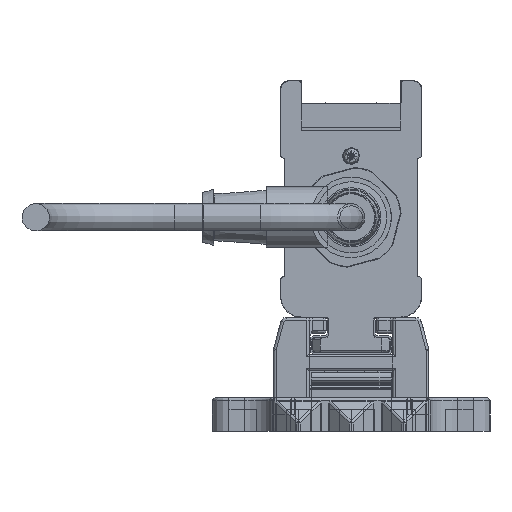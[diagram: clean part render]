
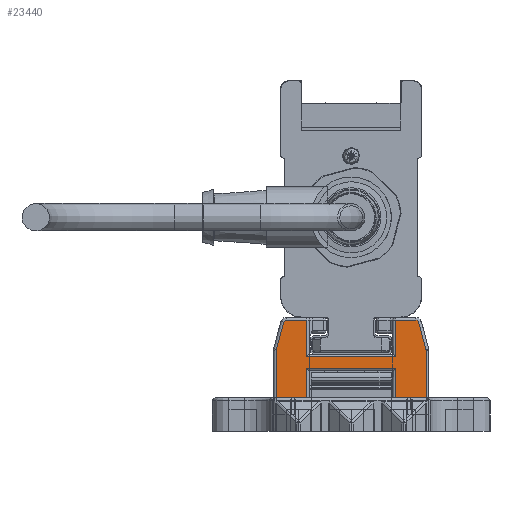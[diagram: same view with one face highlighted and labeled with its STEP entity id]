
A CAD part, left-side view. The second image highlights one B-rep face of the part: STEP entity #23440.
In plain terms, the highlighted planar face has unit normal (-1, 0, 0).
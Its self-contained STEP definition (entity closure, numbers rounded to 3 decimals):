
#23440=ADVANCED_FACE('', (#23450), #23460, .T.);
#165170=AXIS2_PLACEMENT_3D('Ax2Pl3d', #165180, #165190, #165200);
#165410=AXIS2_PLACEMENT_3D('Ax2Pl3d', #165420, #165430, #165440);
#170290=AXIS2_PLACEMENT_3D('Ax2Pl3d', #170300, #170310, #170320);
#175370=AXIS2_PLACEMENT_3D('Ax2Pl3d', #175380, #175390, #175400);
#185050=AXIS2_PLACEMENT_3D('Ax2Pl3d', #185060, #185070, #185080);
#714080=CARTESIAN_POINT('', (-747.669,-4086.345,
331.37));
#165180=CARTESIAN_POINT('HicPkt', (-747.669,-4085.379,
331.111));
#714090=CARTESIAN_POINT('', (-747.669,-4086.379,331.111)
);
#714100=CARTESIAN_POINT('', (-747.669,-4085.037,
336.255));
#714120=CARTESIAN_POINT('', (-747.669,-4085.037,
336.255));
#714150=CARTESIAN_POINT('', (-747.669,-4084.554,
336.625));
#165420=CARTESIAN_POINT('HicPkt', (-747.669,-4084.554,
336.125));
#714370=CARTESIAN_POINT('', (-747.669,-4086.379,322.625)
);
#714380=CARTESIAN_POINT('', (-747.669,-4080.881,322.625)
);
#714390=CARTESIAN_POINT('', (-747.669,-4080.881,322.625)
);
#714470=CARTESIAN_POINT('', (-747.669,-4064.881,322.625)
);
#714480=CARTESIAN_POINT('', (-747.669,-4059.383,322.625)
);
#714490=CARTESIAN_POINT('', (-747.669,-4059.383,322.625)
);
#170300=CARTESIAN_POINT('HicPkt', (-747.669,-4061.209,
336.125));
#716960=CARTESIAN_POINT('', (-747.669,-4060.726,
336.255));
#716970=CARTESIAN_POINT('', (-747.669,-4061.209,
336.625));
#716980=CARTESIAN_POINT('', (-747.669,-4080.881,
330.025));
#716990=CARTESIAN_POINT('', (-747.669,-4064.881,
330.025));
#717000=CARTESIAN_POINT('', (-747.669,-4080.881,
330.025));
#717160=CARTESIAN_POINT('', (-747.669,-4080.881,
328.005));
#717170=CARTESIAN_POINT('', (-747.669,-4064.881,
328.005));
#717180=CARTESIAN_POINT('', (-747.669,-4064.881,
328.005));
#717190=CARTESIAN_POINT('', (-747.669,-4080.881,
328.005));
#717210=CARTESIAN_POINT('', (-747.669,-4064.881,322.625)
);
#717220=CARTESIAN_POINT('', (-747.669,-4064.881,
330.025));
#717230=CARTESIAN_POINT('', (-747.669,-4064.881,
336.625));
#718080=CARTESIAN_POINT('', (-747.669,-4064.881,
336.625));
#718090=CARTESIAN_POINT('', (-747.669,-4060.726,
336.255));
#718100=CARTESIAN_POINT('', (-747.669,-4059.417,
331.37));
#718290=CARTESIAN_POINT('', (-747.669,-4059.383,331.111)
);
#718300=CARTESIAN_POINT('', (-747.669,-4059.383,331.111)
);
#175380=CARTESIAN_POINT('HicPkt', (-747.669,-4060.383,
331.111));
#719110=CARTESIAN_POINT('', (-747.669,-4086.379,331.111)
);
#185060=CARTESIAN_POINT('HicPkt', (-747.669,-4084.554,
336.625));
#720910=CARTESIAN_POINT('', (-747.669,-4080.881,
336.625));
#720920=CARTESIAN_POINT('', (-747.669,-4080.881,
336.625));
#720930=CARTESIAN_POINT('', (-747.669,-4080.881,
336.625));
#828200=CIRCLE('Circle', #165170, 1.);
#828240=CIRCLE('Circle', #165410, 0.5);
#828820=CIRCLE('Circle', #170290, 0.5);
#829350=CIRCLE('Circle', #175370, 1.);
#165190=DIRECTION('Axis', (-1.,0.,
0.));
#165200=DIRECTION('RefDirection', (0.,
0.,-1.));
#1155220=DIRECTION('', (0.,0.259,
0.966));
#165430=DIRECTION('Axis', (-1.,0.,
0.));
#165440=DIRECTION('RefDirection', (0.,
0.,-1.));
#1155330=DIRECTION('', (0.,1.,0.));
#1155370=DIRECTION('', (0.,1.,0.));
#170310=DIRECTION('Axis', (1.,0.,
0.));
#170320=DIRECTION('RefDirection', (0.,
0.,-1.));
#1156560=DIRECTION('', (0.,-1.,0.));
#1156660=DIRECTION('', (0.,1.,0.));
#1156670=DIRECTION('', (0.,0.,1.));
#1156690=DIRECTION('', (0.,0.,-1.));
#1156700=DIRECTION('', (0.,0.,-1.));
#1157130=DIRECTION('', (0.,-1.,0.));
#1157140=DIRECTION('', (0.,-0.259,0.966));
#1157230=DIRECTION('', (0.,0.,1.));
#175390=DIRECTION('Axis', (1.,0.,
0.));
#175400=DIRECTION('RefDirection', (0.,
0.,-1.));
#1157600=DIRECTION('', (0.,0.,1.));
#185070=DIRECTION('Axis', (-1.,0.,
0.));
#185080=DIRECTION('RefDirection', (0.,
0.,-1.));
#1158440=DIRECTION('', (0.,1.,0.));
#1158450=DIRECTION('', (0.,0.,1.));
#1233130=EDGE_CURVE('', #1233140, #1233120, #828200, .T.);
#1233190=EDGE_CURVE('', #1233120, #1233170, #1233200, .T.);
#1233260=EDGE_CURVE('', #1233170, #1233250, #828240, .T.);
#1233710=EDGE_CURVE('', #1233700, #1233720, #1233730, .T.);
#1233870=EDGE_CURVE('', #1233860, #1233880, #1233890, .T.);
#1238230=EDGE_CURVE('', #1238240, #1238250, #828820, .T.);
#1238280=EDGE_CURVE('', #1238290, #1238300, #1238310, .T.);
#1238650=EDGE_CURVE('', #1238630, #1238660, #1238670, .T.);
#1238700=EDGE_CURVE('', #1233720, #1238630, #1238710, .T.);
#1238740=EDGE_CURVE('', #1238660, #1233860, #1238750, .T.);
#1238760=EDGE_CURVE('', #1238770, #1238290, #1238780, .T.);
#1240600=EDGE_CURVE('', #1238250, #1238770, #1240610, .T.);
#1240670=EDGE_CURVE('', #1240680, #1238240, #1240690, .T.);
#1241110=EDGE_CURVE('', #1233880, #1241120, #1241130, .T.);
#1241150=EDGE_CURVE('', #1241120, #1240680, #829350, .T.);
#1242860=EDGE_CURVE('', #1233700, #1233140, #1242870, .T.);
#1246670=EDGE_CURVE('', #1233250, #1246680, #1246690, .T.);
#1246700=EDGE_CURVE('', #1238300, #1246680, #1246710, .T.);
#1483650=EDGE_LOOP('Edge_loop', (#1483660,#1483670,#1483680,#1483690,
#1483700,#1483710,#1483720,#1483730,#1483740,#1483750,#1483760,
#1483770,#1483780,#1483790,#1483800,#1483810,#1483820,#1483830));
#23450=FACE_OUTER_BOUND('Face_outer_bound', #1483650, .T.);
#1233200=LINE('Line', #714120, #1704690);
#1233730=LINE('Line', #714380, #1704800);
#1233890=LINE('Line', #714480, #1704840);
#1238310=LINE('Line', #716980, #1706030);
#1238670=LINE('Line', #717170, #1706130);
#1238710=LINE('Line', #717190, #1706140);
#1238750=LINE('Line', #717210, #1706160);
#1238780=LINE('Line', #717220, #1706170);
#1240610=LINE('Line', #718080, #1706600);
#1240690=LINE('Line', #718090, #1706610);
#1241130=LINE('Line', #718290, #1706700);
#1242870=LINE('Line', #719110, #1707070);
#1246690=LINE('Line', #720910, #1707910);
#1246710=LINE('Line', #720930, #1707920);
#1483660=ORIENTED_EDGE('', *, *, #1246670, .T.);
#1483670=ORIENTED_EDGE('', *, *, #1246700, .F.);
#1483680=ORIENTED_EDGE('', *, *, #1238280, .F.);
#1483690=ORIENTED_EDGE('', *, *, #1238760, .F.);
#1483700=ORIENTED_EDGE('', *, *, #1240600, .F.);
#1483710=ORIENTED_EDGE('', *, *, #1238230, .F.);
#1483720=ORIENTED_EDGE('', *, *, #1240670, .F.);
#1483730=ORIENTED_EDGE('', *, *, #1241150, .F.);
#1483740=ORIENTED_EDGE('', *, *, #1241110, .F.);
#1483750=ORIENTED_EDGE('', *, *, #1233870, .F.);
#1483760=ORIENTED_EDGE('', *, *, #1238740, .F.);
#1483770=ORIENTED_EDGE('', *, *, #1238650, .F.);
#1483780=ORIENTED_EDGE('', *, *, #1238700, .F.);
#1483790=ORIENTED_EDGE('', *, *, #1233710, .F.);
#1483800=ORIENTED_EDGE('', *, *, #1242860, .T.);
#1483810=ORIENTED_EDGE('', *, *, #1233130, .T.);
#1483820=ORIENTED_EDGE('', *, *, #1233190, .T.);
#1483830=ORIENTED_EDGE('', *, *, #1233260, .T.);
#23460=PLANE('Plane', #185050);
#1704690=VECTOR('', #1155220, 5.057);
#1704800=VECTOR('', #1155330, 5.498);
#1704840=VECTOR('', #1155370, 5.498);
#1706030=VECTOR('', #1156560, 16.);
#1706130=VECTOR('', #1156660, 16.);
#1706140=VECTOR('', #1156670, 5.38);
#1706160=VECTOR('', #1156690, 5.38);
#1706170=VECTOR('', #1156700, 6.6);
#1706600=VECTOR('', #1157130, 3.672);
#1706610=VECTOR('', #1157140, 5.057);
#1706700=VECTOR('', #1157230, 8.486);
#1707070=VECTOR('', #1157600, 8.486);
#1707910=VECTOR('', #1158440, 3.672);
#1707920=VECTOR('', #1158450, 6.6);
#1233120=VERTEX_POINT('', #714080);
#1233140=VERTEX_POINT('', #714090);
#1233170=VERTEX_POINT('', #714100);
#1233250=VERTEX_POINT('', #714150);
#1233700=VERTEX_POINT('', #714370);
#1233720=VERTEX_POINT('', #714390);
#1233860=VERTEX_POINT('', #714470);
#1233880=VERTEX_POINT('', #714490);
#1238240=VERTEX_POINT('', #716960);
#1238250=VERTEX_POINT('', #716970);
#1238290=VERTEX_POINT('', #716990);
#1238300=VERTEX_POINT('', #717000);
#1238630=VERTEX_POINT('', #717160);
#1238660=VERTEX_POINT('', #717180);
#1238770=VERTEX_POINT('', #717230);
#1240680=VERTEX_POINT('', #718100);
#1241120=VERTEX_POINT('', #718300);
#1246680=VERTEX_POINT('', #720920);
